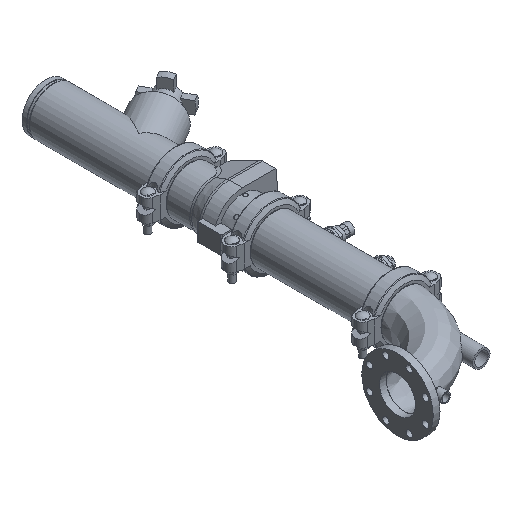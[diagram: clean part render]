
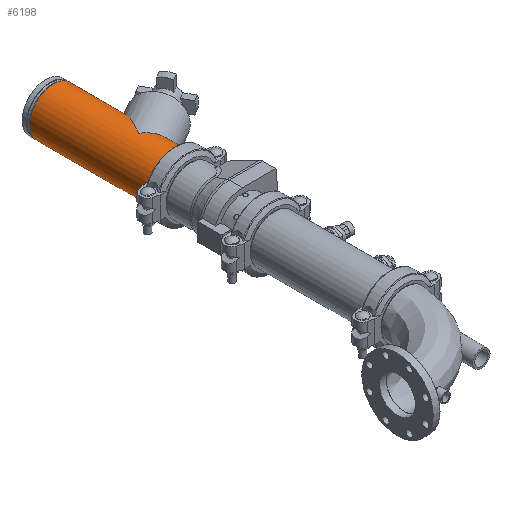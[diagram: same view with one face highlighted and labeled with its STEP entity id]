
A CAD part, isometric view. The second image highlights one B-rep face of the part: STEP entity #6198.
In plain terms, the highlighted cylindrical face has radius 84.138 mm (diameter 168.275 mm), a full revolution.
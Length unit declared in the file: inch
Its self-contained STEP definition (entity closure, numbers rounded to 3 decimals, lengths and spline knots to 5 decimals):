
#127=ELLIPSE('',#6763,6.625,3.3125);
#128=ELLIPSE('',#6764,3.82495,3.3125);
#129=ELLIPSE('',#6767,3.82495,3.3125);
#130=ELLIPSE('',#6768,6.625,3.3125);
#218=LINE('',#9525,#666);
#219=LINE('',#9531,#667);
#666=VECTOR('',#7625,3.3125);
#667=VECTOR('',#7630,3.3125);
#1085=CYLINDRICAL_SURFACE('',#6760,3.3125);
#1298=FACE_OUTER_BOUND('',#1645,.T.);
#1645=EDGE_LOOP('',(#4011,#4012,#4013,#4014,#4015,#4016,#4017,#4018,#4019,
#4020,#4021,#4022));
#2070=CIRCLE('',#6761,3.3125);
#2071=CIRCLE('',#6762,3.3125);
#2072=CIRCLE('',#6765,3.3125);
#2073=CIRCLE('',#6766,3.3125);
#2442=VERTEX_POINT('',#9520);
#2443=VERTEX_POINT('',#9521);
#2444=VERTEX_POINT('',#9524);
#2445=VERTEX_POINT('',#9526);
#2446=VERTEX_POINT('',#9528);
#2447=VERTEX_POINT('',#9530);
#2448=VERTEX_POINT('',#9532);
#2449=VERTEX_POINT('',#9535);
#3064=EDGE_CURVE('',#2442,#2443,#2070,.T.);
#3065=EDGE_CURVE('',#2443,#2442,#2071,.T.);
#3066=EDGE_CURVE('',#2443,#2444,#218,.T.);
#3067=EDGE_CURVE('',#2444,#2445,#127,.T.);
#3068=EDGE_CURVE('',#2445,#2446,#128,.T.);
#3069=EDGE_CURVE('',#2446,#2447,#219,.T.);
#3070=EDGE_CURVE('',#2447,#2448,#2072,.T.);
#3071=EDGE_CURVE('',#2448,#2447,#2073,.T.);
#3072=EDGE_CURVE('',#2446,#2449,#129,.T.);
#3073=EDGE_CURVE('',#2449,#2444,#130,.T.);
#4011=ORIENTED_EDGE('',*,*,#3064,.F.);
#4012=ORIENTED_EDGE('',*,*,#3065,.F.);
#4013=ORIENTED_EDGE('',*,*,#3066,.T.);
#4014=ORIENTED_EDGE('',*,*,#3067,.T.);
#4015=ORIENTED_EDGE('',*,*,#3068,.T.);
#4016=ORIENTED_EDGE('',*,*,#3069,.T.);
#4017=ORIENTED_EDGE('',*,*,#3070,.T.);
#4018=ORIENTED_EDGE('',*,*,#3071,.T.);
#4019=ORIENTED_EDGE('',*,*,#3069,.F.);
#4020=ORIENTED_EDGE('',*,*,#3072,.T.);
#4021=ORIENTED_EDGE('',*,*,#3073,.T.);
#4022=ORIENTED_EDGE('',*,*,#3066,.F.);
#6198=ADVANCED_FACE('',(#1298),#1085,.T.);
#6760=AXIS2_PLACEMENT_3D('',#9519,#7619,#7620);
#6761=AXIS2_PLACEMENT_3D('',#9522,#7621,#7622);
#6762=AXIS2_PLACEMENT_3D('',#9523,#7623,#7624);
#6763=AXIS2_PLACEMENT_3D('',#9527,#7626,#7627);
#6764=AXIS2_PLACEMENT_3D('',#9529,#7628,#7629);
#6765=AXIS2_PLACEMENT_3D('',#9533,#7631,#7632);
#6766=AXIS2_PLACEMENT_3D('',#9534,#7633,#7634);
#6767=AXIS2_PLACEMENT_3D('',#9536,#7635,#7636);
#6768=AXIS2_PLACEMENT_3D('',#9537,#7637,#7638);
#7619=DIRECTION('center_axis',(1.,0.,0.));
#7620=DIRECTION('ref_axis',(0.,1.,0.));
#7621=DIRECTION('center_axis',(1.,0.,0.));
#7622=DIRECTION('ref_axis',(0.,0.,-1.));
#7623=DIRECTION('center_axis',(1.,0.,0.));
#7624=DIRECTION('ref_axis',(0.,0.,-1.));
#7625=DIRECTION('',(-1.,0.,0.));
#7626=DIRECTION('center_axis',(0.5,0.866,0.));
#7627=DIRECTION('ref_axis',(-0.866,0.5,0.));
#7628=DIRECTION('center_axis',(-0.866,0.5,0.));
#7629=DIRECTION('ref_axis',(-0.5,-0.866,0.));
#7630=DIRECTION('',(-1.,0.,0.));
#7631=DIRECTION('center_axis',(1.,0.,0.));
#7632=DIRECTION('ref_axis',(0.,0.,-1.));
#7633=DIRECTION('center_axis',(1.,0.,0.));
#7634=DIRECTION('ref_axis',(0.,0.,-1.));
#7635=DIRECTION('center_axis',(-0.866,0.5,0.));
#7636=DIRECTION('ref_axis',(-0.5,-0.866,0.));
#7637=DIRECTION('center_axis',(0.5,0.866,0.));
#7638=DIRECTION('ref_axis',(-0.866,0.5,0.));
#9519=CARTESIAN_POINT('Origin',(0.,0.,
0.));
#9520=CARTESIAN_POINT('',(8.44,3.3125,0.));
#9521=CARTESIAN_POINT('',(8.44,-3.3125,0.));
#9522=CARTESIAN_POINT('Origin',(8.44,0.,0.));
#9523=CARTESIAN_POINT('Origin',(8.44,0.,0.));
#9524=CARTESIAN_POINT('',(2.15155,-3.3125,0.));
#9525=CARTESIAN_POINT('',(0.,-3.3125,0.));
#9526=CARTESIAN_POINT('',(-3.58586,0.,-3.3125));
#9527=CARTESIAN_POINT('Origin',(-3.58586,0.,
0.));
#9528=CARTESIAN_POINT('',(-5.49834,-3.3125,0.));
#9529=CARTESIAN_POINT('Origin',(-3.58586,0.,
0.));
#9530=CARTESIAN_POINT('',(-8.44,-3.3125,0.));
#9531=CARTESIAN_POINT('',(0.,-3.3125,0.));
#9532=CARTESIAN_POINT('',(-8.44,3.3125,0.));
#9533=CARTESIAN_POINT('Origin',(-8.44,0.,0.));
#9534=CARTESIAN_POINT('Origin',(-8.44,0.,0.));
#9535=CARTESIAN_POINT('',(-3.58586,0.,3.3125));
#9536=CARTESIAN_POINT('Origin',(-3.58586,0.,
0.));
#9537=CARTESIAN_POINT('Origin',(-3.58586,0.,
0.));
